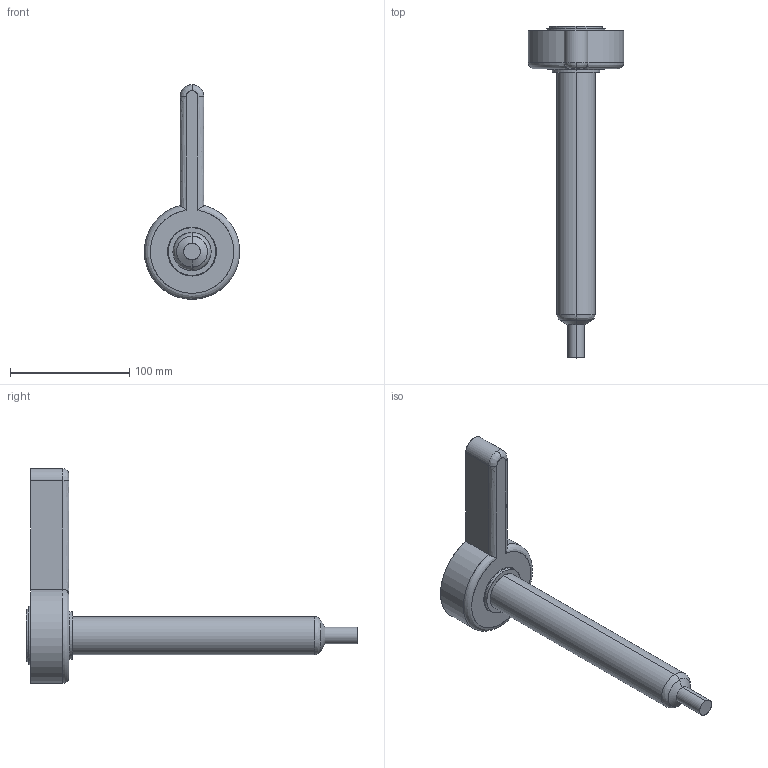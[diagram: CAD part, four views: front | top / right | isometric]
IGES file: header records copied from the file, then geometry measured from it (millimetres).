
Start section: SolidWorks IGES file using analytic representation for surfaces
Global section: file name: C:\Documents and Settings\ws-20\Desktop\TEM\Sede UGBE4505-S-A C-214 L-251 P-25.IGS; native system: SolidWorks 2012; preprocessor: SolidWorks 2012; author: ws-20; date: 120412.155738; units: millimetre
Bounding box: 79.97 x 278.54 x 180 mm (x, y, z)
Surface area: 50158.5 mm2 (no closed solid volume)
Topology: 0 solids, 0 shells, 34 faces, 788 edges, 788 vertices
Faces by surface type: revolution 21, bspline 13
